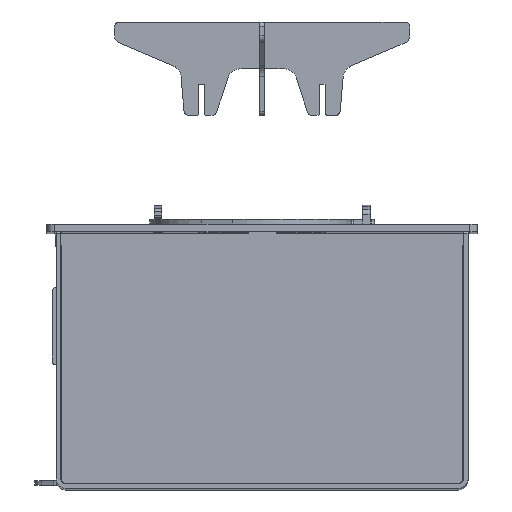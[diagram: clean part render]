
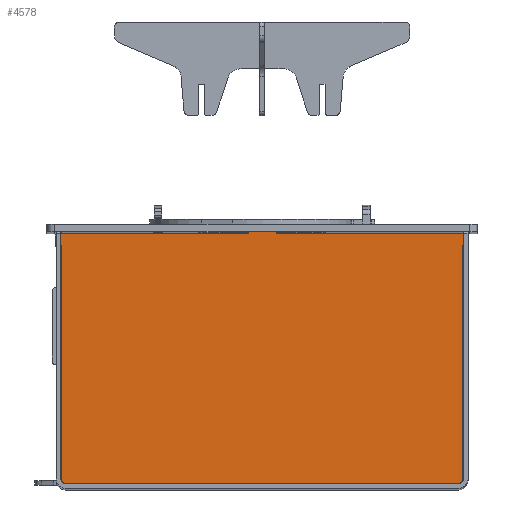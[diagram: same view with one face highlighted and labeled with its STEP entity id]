
A CAD part, top view. The second image highlights one B-rep face of the part: STEP entity #4578.
In plain terms, the highlighted planar face has unit normal (0, 0, 1).
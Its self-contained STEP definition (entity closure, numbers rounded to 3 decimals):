
#3951=CARTESIAN_POINT('',(52.,1.5,1.5));
#3952=DIRECTION('',(0.,0.,1.));
#3953=DIRECTION('',(-1.,0.,0.));
#3954=AXIS2_PLACEMENT_3D('',#3951,#3952,#3953);
#3956=DIRECTION('',(0.,-1.,0.));
#3957=VECTOR('',#3956,1.5);
#3958=CARTESIAN_POINT('',(51.,3.,1.5));
#3959=LINE('',#3958,#3957);
#3960=DIRECTION('',(1.,0.,0.));
#3961=VECTOR('',#3960,102.);
#3962=CARTESIAN_POINT('',(-51.,3.,1.5));
#3963=LINE('',#3962,#3961);
#3964=DIRECTION('',(0.,1.,0.));
#3965=VECTOR('',#3964,1.5);
#3966=CARTESIAN_POINT('',(-51.,1.5,1.5));
#3967=LINE('',#3966,#3965);
#3968=CARTESIAN_POINT('',(-52.,1.5,1.5));
#3969=DIRECTION('',(0.,0.,1.));
#3970=DIRECTION('',(0.,-1.,0.));
#3971=AXIS2_PLACEMENT_3D('',#3968,#3969,#3970);
#3973=DIRECTION('',(1.,0.,0.));
#3974=VECTOR('',#3973,16.);
#3975=CARTESIAN_POINT('',(-68.,0.5,1.5));
#3976=LINE('',#3975,#3974);
#3977=CARTESIAN_POINT('',(-68.,1.5,1.5));
#3978=DIRECTION('',(0.,0.,1.));
#3979=DIRECTION('',(-1.,0.,0.));
#3980=AXIS2_PLACEMENT_3D('',#3977,#3978,#3979);
#3982=DIRECTION('',(0.,-1.,0.));
#3983=VECTOR('',#3982,1.5);
#3984=CARTESIAN_POINT('',(-69.,3.,1.5));
#3985=LINE('',#3984,#3983);
#3986=DIRECTION('',(1.,0.,0.));
#3987=VECTOR('',#3986,57.);
#3988=CARTESIAN_POINT('',(-126.,3.,1.5));
#3989=LINE('',#3988,#3987);
#3990=CARTESIAN_POINT('',(-126.,6.,1.5));
#3991=DIRECTION('',(0.,0.,1.));
#3992=DIRECTION('',(-1.,0.,0.));
#3993=AXIS2_PLACEMENT_3D('',#3990,#3991,#3992);
#3995=DIRECTION('',(0.,-1.,0.));
#3996=VECTOR('',#3995,150.);
#3997=CARTESIAN_POINT('',(-129.,156.,1.5));
#3998=LINE('',#3997,#3996);
#3999=DIRECTION('',(1.,0.,0.));
#4000=VECTOR('',#3999,3.);
#4001=CARTESIAN_POINT('',(-132.,156.,1.5));
#4002=LINE('',#4001,#4000);
#4003=CARTESIAN_POINT('',(-132.,157.,1.5));
#4004=DIRECTION('',(0.,0.,1.));
#4005=DIRECTION('',(-1.,0.,0.));
#4006=AXIS2_PLACEMENT_3D('',#4003,#4004,#4005);
#4008=DIRECTION('',(0.,-1.,0.));
#4009=VECTOR('',#4008,6.);
#4010=CARTESIAN_POINT('',(-133.,163.,1.5));
#4011=LINE('',#4010,#4009);
#4012=CARTESIAN_POINT('',(-132.,163.,1.5));
#4013=DIRECTION('',(0.,0.,1.));
#4014=DIRECTION('',(0.,1.,0.));
#4015=AXIS2_PLACEMENT_3D('',#4012,#4013,#4014);
#4017=DIRECTION('',(0.,-1.,0.));
#4018=VECTOR('',#4017,1.5);
#4019=CARTESIAN_POINT('',(-9.,165.5,1.5));
#4020=LINE('',#4019,#4018);
#4021=CARTESIAN_POINT('',(-8.,165.5,1.5));
#4022=DIRECTION('',(0.,0.,1.));
#4023=DIRECTION('',(0.,1.,0.));
#4024=AXIS2_PLACEMENT_3D('',#4021,#4022,#4023);
#4026=DIRECTION('',(-1.,0.,0.));
#4027=VECTOR('',#4026,16.);
#4028=CARTESIAN_POINT('',(8.,166.5,1.5));
#4029=LINE('',#4028,#4027);
#4030=CARTESIAN_POINT('',(8.,165.5,1.5));
#4031=DIRECTION('',(0.,0.,1.));
#4032=DIRECTION('',(1.,0.,0.));
#4033=AXIS2_PLACEMENT_3D('',#4030,#4031,#4032);
#4035=DIRECTION('',(0.,1.,0.));
#4036=VECTOR('',#4035,1.5);
#4037=CARTESIAN_POINT('',(9.,164.,1.5));
#4038=LINE('',#4037,#4036);
#4039=CARTESIAN_POINT('',(132.,163.,1.5));
#4040=DIRECTION('',(0.,0.,1.));
#4041=DIRECTION('',(1.,0.,0.));
#4042=AXIS2_PLACEMENT_3D('',#4039,#4040,#4041);
#4044=DIRECTION('',(0.,1.,0.));
#4045=VECTOR('',#4044,6.);
#4046=CARTESIAN_POINT('',(133.,157.,1.5));
#4047=LINE('',#4046,#4045);
#4048=CARTESIAN_POINT('',(132.,157.,1.5));
#4049=DIRECTION('',(0.,0.,1.));
#4050=DIRECTION('',(0.,-1.,0.));
#4051=AXIS2_PLACEMENT_3D('',#4048,#4049,#4050);
#4053=DIRECTION('',(1.,0.,0.));
#4054=VECTOR('',#4053,3.);
#4055=CARTESIAN_POINT('',(129.,156.,1.5));
#4056=LINE('',#4055,#4054);
#4057=DIRECTION('',(0.,1.,0.));
#4058=VECTOR('',#4057,150.);
#4059=CARTESIAN_POINT('',(129.,6.,1.5));
#4060=LINE('',#4059,#4058);
#4061=CARTESIAN_POINT('',(126.,6.,1.5));
#4062=DIRECTION('',(0.,0.,1.));
#4063=DIRECTION('',(0.,-1.,0.));
#4064=AXIS2_PLACEMENT_3D('',#4061,#4062,#4063);
#4066=DIRECTION('',(1.,0.,0.));
#4067=VECTOR('',#4066,57.);
#4068=CARTESIAN_POINT('',(69.,3.,1.5));
#4069=LINE('',#4068,#4067);
#4070=DIRECTION('',(0.,1.,0.));
#4071=VECTOR('',#4070,1.5);
#4072=CARTESIAN_POINT('',(69.,1.5,1.5));
#4073=LINE('',#4072,#4071);
#4074=CARTESIAN_POINT('',(68.,1.5,1.5));
#4075=DIRECTION('',(0.,0.,1.));
#4076=DIRECTION('',(0.,-1.,0.));
#4077=AXIS2_PLACEMENT_3D('',#4074,#4075,#4076);
#4079=DIRECTION('',(1.,0.,0.));
#4080=VECTOR('',#4079,16.);
#4081=CARTESIAN_POINT('',(52.,0.5,1.5));
#4082=LINE('',#4081,#4080);
#4107=DIRECTION('',(-1.,0.,0.));
#4108=VECTOR('',#4107,123.);
#4109=CARTESIAN_POINT('',(132.,164.,1.5));
#4110=LINE('',#4109,#4108);
#4123=DIRECTION('',(-1.,0.,0.));
#4124=VECTOR('',#4123,123.);
#4125=CARTESIAN_POINT('',(-9.,164.,1.5));
#4126=LINE('',#4125,#4124);
#4176=CARTESIAN_POINT('',(-129.,156.,1.5));
#4178=VERTEX_POINT('',#4176);
#4180=CARTESIAN_POINT('',(-69.,3.,1.5));
#4182=VERTEX_POINT('',#4180);
#4184=CARTESIAN_POINT('',(-51.,3.,1.5));
#4186=VERTEX_POINT('',#4184);
#4188=CARTESIAN_POINT('',(51.,3.,1.5));
#4190=VERTEX_POINT('',#4188);
#4192=CARTESIAN_POINT('',(69.,3.,1.5));
#4194=VERTEX_POINT('',#4192);
#4196=CARTESIAN_POINT('',(129.,156.,1.5));
#4198=VERTEX_POINT('',#4196);
#4203=CARTESIAN_POINT('',(-129.,6.,1.5));
#4204=VERTEX_POINT('',#4203);
#4205=CARTESIAN_POINT('',(-126.,3.,1.5));
#4206=VERTEX_POINT('',#4205);
#4211=CARTESIAN_POINT('',(126.,3.,1.5));
#4212=VERTEX_POINT('',#4211);
#4213=CARTESIAN_POINT('',(129.,6.,1.5));
#4214=VERTEX_POINT('',#4213);
#4216=CARTESIAN_POINT('',(9.,164.,1.5));
#4218=VERTEX_POINT('',#4216);
#4220=CARTESIAN_POINT('',(-9.,164.,1.5));
#4222=VERTEX_POINT('',#4220);
#4227=CARTESIAN_POINT('',(51.,1.5,1.5));
#4228=VERTEX_POINT('',#4227);
#4229=CARTESIAN_POINT('',(52.,0.5,1.5));
#4230=VERTEX_POINT('',#4229);
#4235=CARTESIAN_POINT('',(68.,0.5,1.5));
#4236=VERTEX_POINT('',#4235);
#4237=CARTESIAN_POINT('',(69.,1.5,1.5));
#4238=VERTEX_POINT('',#4237);
#4243=CARTESIAN_POINT('',(-52.,0.5,1.5));
#4244=VERTEX_POINT('',#4243);
#4245=CARTESIAN_POINT('',(-51.,1.5,1.5));
#4246=VERTEX_POINT('',#4245);
#4251=CARTESIAN_POINT('',(-69.,1.5,1.5));
#4252=VERTEX_POINT('',#4251);
#4253=CARTESIAN_POINT('',(-68.,0.5,1.5));
#4254=VERTEX_POINT('',#4253);
#4259=CARTESIAN_POINT('',(132.,156.,1.5));
#4260=VERTEX_POINT('',#4259);
#4261=CARTESIAN_POINT('',(133.,157.,1.5));
#4262=VERTEX_POINT('',#4261);
#4267=CARTESIAN_POINT('',(133.,163.,1.5));
#4268=VERTEX_POINT('',#4267);
#4269=CARTESIAN_POINT('',(132.,164.,1.5));
#4270=VERTEX_POINT('',#4269);
#4275=CARTESIAN_POINT('',(-133.,157.,1.5));
#4276=VERTEX_POINT('',#4275);
#4277=CARTESIAN_POINT('',(-132.,156.,1.5));
#4278=VERTEX_POINT('',#4277);
#4283=CARTESIAN_POINT('',(-132.,164.,1.5));
#4284=VERTEX_POINT('',#4283);
#4285=CARTESIAN_POINT('',(-133.,163.,1.5));
#4286=VERTEX_POINT('',#4285);
#4291=CARTESIAN_POINT('',(9.,165.5,1.5));
#4292=VERTEX_POINT('',#4291);
#4293=CARTESIAN_POINT('',(8.,166.5,1.5));
#4294=VERTEX_POINT('',#4293);
#4299=CARTESIAN_POINT('',(-8.,166.5,1.5));
#4300=VERTEX_POINT('',#4299);
#4301=CARTESIAN_POINT('',(-9.,165.5,1.5));
#4302=VERTEX_POINT('',#4301);
#4517=CARTESIAN_POINT('',(0.,0.,1.5));
#4518=DIRECTION('',(0.,0.,1.));
#4519=DIRECTION('',(1.,0.,0.));
#4520=AXIS2_PLACEMENT_3D('',#4517,#4518,#4519);
#4521=PLANE('',#4520);
#4522=ORIENTED_EDGE('',*,*,#4383,.F.);
#4523=ORIENTED_EDGE('',*,*,#4399,.F.);
#4524=ORIENTED_EDGE('',*,*,#4411,.F.);
#4525=ORIENTED_EDGE('',*,*,#4455,.F.);
#4526=ORIENTED_EDGE('',*,*,#4470,.F.);
#4527=ORIENTED_EDGE('',*,*,#4485,.F.);
#4528=ORIENTED_EDGE('',*,*,#4498,.F.);
#4529=ORIENTED_EDGE('',*,*,#4512,.F.);
#4530=ORIENTED_EDGE('',*,*,#4425,.F.);
#4532=ORIENTED_EDGE('',*,*,#4531,.F.);
#4534=ORIENTED_EDGE('',*,*,#4533,.F.);
#4536=ORIENTED_EDGE('',*,*,#4535,.F.);
#4538=ORIENTED_EDGE('',*,*,#4537,.F.);
#4540=ORIENTED_EDGE('',*,*,#4539,.F.);
#4542=ORIENTED_EDGE('',*,*,#4541,.F.);
#4544=ORIENTED_EDGE('',*,*,#4543,.F.);
#4546=ORIENTED_EDGE('',*,*,#4545,.F.);
#4548=ORIENTED_EDGE('',*,*,#4547,.F.);
#4550=ORIENTED_EDGE('',*,*,#4549,.F.);
#4552=ORIENTED_EDGE('',*,*,#4551,.F.);
#4554=ORIENTED_EDGE('',*,*,#4553,.F.);
#4556=ORIENTED_EDGE('',*,*,#4555,.F.);
#4558=ORIENTED_EDGE('',*,*,#4557,.F.);
#4560=ORIENTED_EDGE('',*,*,#4559,.F.);
#4562=ORIENTED_EDGE('',*,*,#4561,.F.);
#4564=ORIENTED_EDGE('',*,*,#4563,.F.);
#4566=ORIENTED_EDGE('',*,*,#4565,.F.);
#4568=ORIENTED_EDGE('',*,*,#4567,.F.);
#4569=ORIENTED_EDGE('',*,*,#4443,.F.);
#4571=ORIENTED_EDGE('',*,*,#4570,.F.);
#4573=ORIENTED_EDGE('',*,*,#4572,.F.);
#4575=ORIENTED_EDGE('',*,*,#4574,.F.);
#4576=EDGE_LOOP('',(#4522,#4523,#4524,#4525,#4526,#4527,#4528,#4529,#4530,#4532,
#4534,#4536,#4538,#4540,#4542,#4544,#4546,#4548,#4550,#4552,#4554,#4556,#4558,
#4560,#4562,#4564,#4566,#4568,#4569,#4571,#4573,#4575));
#4577=FACE_OUTER_BOUND('',#4576,.F.);
#3955=CIRCLE('',#3954,1.);
#3972=CIRCLE('',#3971,1.);
#3981=CIRCLE('',#3980,1.);
#3994=CIRCLE('',#3993,3.);
#4007=CIRCLE('',#4006,1.);
#4016=CIRCLE('',#4015,1.);
#4025=CIRCLE('',#4024,1.);
#4034=CIRCLE('',#4033,1.);
#4043=CIRCLE('',#4042,1.);
#4052=CIRCLE('',#4051,1.);
#4065=CIRCLE('',#4064,3.);
#4078=CIRCLE('',#4077,1.);
#4383=EDGE_CURVE('',#4228,#4230,#3955,.T.);
#4399=EDGE_CURVE('',#4190,#4228,#3959,.T.);
#4411=EDGE_CURVE('',#4186,#4190,#3963,.T.);
#4425=EDGE_CURVE('',#4206,#4182,#3989,.T.);
#4443=EDGE_CURVE('',#4194,#4212,#4069,.T.);
#4455=EDGE_CURVE('',#4246,#4186,#3967,.T.);
#4470=EDGE_CURVE('',#4244,#4246,#3972,.T.);
#4485=EDGE_CURVE('',#4254,#4244,#3976,.T.);
#4498=EDGE_CURVE('',#4252,#4254,#3981,.T.);
#4512=EDGE_CURVE('',#4182,#4252,#3985,.T.);
#4531=EDGE_CURVE('',#4204,#4206,#3994,.T.);
#4533=EDGE_CURVE('',#4178,#4204,#3998,.T.);
#4535=EDGE_CURVE('',#4278,#4178,#4002,.T.);
#4537=EDGE_CURVE('',#4276,#4278,#4007,.T.);
#4539=EDGE_CURVE('',#4286,#4276,#4011,.T.);
#4541=EDGE_CURVE('',#4284,#4286,#4016,.T.);
#4543=EDGE_CURVE('',#4222,#4284,#4126,.T.);
#4545=EDGE_CURVE('',#4302,#4222,#4020,.T.);
#4547=EDGE_CURVE('',#4300,#4302,#4025,.T.);
#4549=EDGE_CURVE('',#4294,#4300,#4029,.T.);
#4551=EDGE_CURVE('',#4292,#4294,#4034,.T.);
#4553=EDGE_CURVE('',#4218,#4292,#4038,.T.);
#4555=EDGE_CURVE('',#4270,#4218,#4110,.T.);
#4557=EDGE_CURVE('',#4268,#4270,#4043,.T.);
#4559=EDGE_CURVE('',#4262,#4268,#4047,.T.);
#4561=EDGE_CURVE('',#4260,#4262,#4052,.T.);
#4563=EDGE_CURVE('',#4198,#4260,#4056,.T.);
#4565=EDGE_CURVE('',#4214,#4198,#4060,.T.);
#4567=EDGE_CURVE('',#4212,#4214,#4065,.T.);
#4570=EDGE_CURVE('',#4238,#4194,#4073,.T.);
#4572=EDGE_CURVE('',#4236,#4238,#4078,.T.);
#4574=EDGE_CURVE('',#4230,#4236,#4082,.T.);
#4578=ADVANCED_FACE('',(#4577),#4521,.T.);
